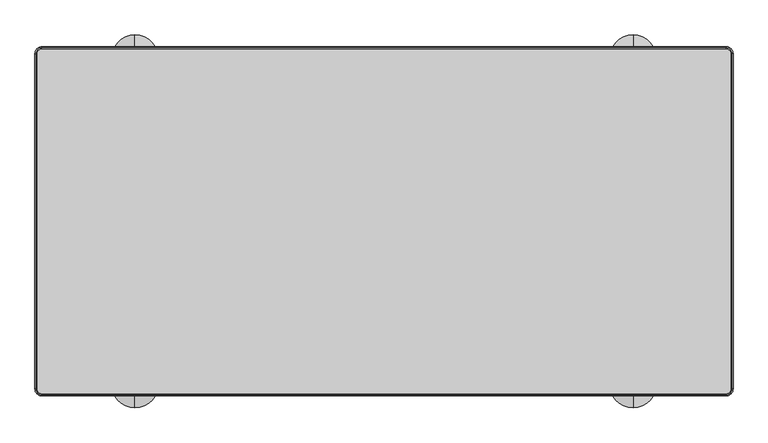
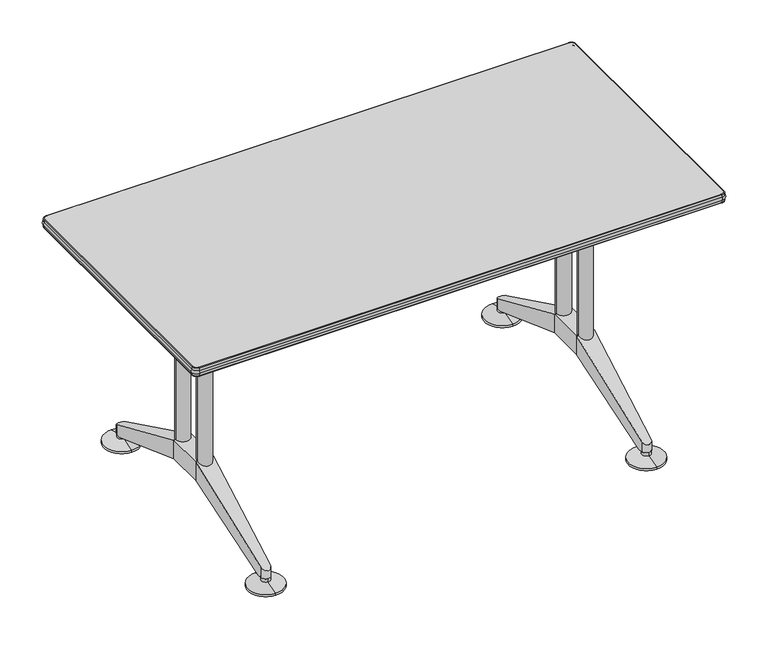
"""IFC4 building model written with IfcOpenShell, lengths in millimetres: furniture geometry, Furniture_Wilkhahn_620-00_Logon Table-Rectangle : Logon 620/00_1500L x 750W x 730H."""

from ifc_helpers import new_model, si_unit, point, frame, frame_2d, origin, place, context, project, spatial, polyline, circle_curve, ellipse_curve, trimmed, segment, composite_curve, outline, extrude, source, transform, mapped, element, save
from ifc_brep_helpers import plane_surface, cylinder_surface, revolved_surface, advanced_brep


def furniture_cd230aaf(model_context):
    return source(origin(), model_context, "Body", "SolidModel", [
        advanced_brep(
        [(-735.0, -346.5488456, 705.4999792), (-747.5, -334.0488456, 705.4999792), (-746.0, -334.0488456, 703.9999792), (-735.0, -345.0488456, 703.9999792), (-735.0, -346.5488456, 712.6698626), (-747.5, -334.0488456, 712.6698626), (-735.0, -346.5488456, 721.3301166), (-747.5, -334.0488456, 721.3301166), (-735.0, -346.5488456, 728.5), (-747.5, -334.0488456, 728.5), (-735.0, -345.0488456, 730.0), (-746.0, -334.0488456, 730.0), (735.0, -345.0488456, 703.9999792), (735.0, -346.5488456, 705.4999792), (735.0, -346.5488456, 712.6698626), (735.0, -346.5488456, 721.3301166), (735.0, -346.5488456, 728.5), (735.0, -345.0488456, 730.0), (746.0, -334.0488456, 703.9999792), (747.5, -334.0488456, 705.4999792), (747.5, -334.0488456, 712.6698626), (747.5, -334.0488456, 721.3301166), (747.5, -334.0488456, 728.5), (746.0, -334.0488456, 730.0), (746.0, 385.9511544, 703.9999792), (747.5, 385.9511544, 705.4999792), (747.5, 385.9511544, 712.6698626), (747.5, 385.9511544, 721.3301166), (747.5, 385.9511544, 728.5), (746.0, 385.9511544, 730.0), (735.0, 396.9511544, 703.9999792), (735.0, 398.4511544, 705.4999792), (735.0, 398.4511544, 712.6698626), (735.0, 398.4511544, 721.3301166), (735.0, 398.4511544, 728.5), (735.0, 396.9511544, 730.0), (-735.0, 396.9511544, 703.9999792), (-735.0, 398.4511544, 705.4999792), (-735.0, 398.4511544, 712.6698626), (-735.0, 398.4511544, 721.3301166), (-735.0, 398.4511544, 728.5), (-735.0, 396.9511544, 730.0), (-746.0, 385.9511544, 703.9999792), (-747.5, 385.9511544, 705.4999792), (-747.5, 385.9511544, 712.6698626), (-747.5, 385.9511544, 721.3301166), (-747.5, 385.9511544, 728.5), (-746.0, 385.9511544, 730.0)],
        [
            (0, 1, circle_curve(frame((-735.0, -334.0488456, 705.4999792), z_axis=(0.0, 0.0, -1.0), x_axis=(-1.0, 0.0, 0.0)), 12.5)),
            (1, 2, circle_curve(frame((-746.0, -334.0488456, 705.4999792), z_axis=(0.0, -1.0, 0.0), x_axis=(1.0, 0.0, 0.0)), 1.5)),
            (2, 3, circle_curve(frame((-735.0, -334.0488456, 703.9999792), z_axis=(0.0, 0.0, 1.0), x_axis=(-1.0, 0.0, 0.0)), 11.0)),
            (3, 0, circle_curve(frame((-735.0, -345.0488456, 705.4999792), z_axis=(-1.0, 0.0, 0.0), x_axis=(0.0, 1.0, 0.0)), 1.5)),
            (0, 4),
            (4, 5, circle_curve(frame((-735.0, -334.0488456, 712.6698626), z_axis=(0.0, 0.0, -1.0), x_axis=(-1.0, 0.0, 0.0)), 12.5)),
            (5, 1),
            (4, 6, circle_curve(frame((-735.0, -344.0488456, 716.9999896), z_axis=(-1.0, 0.0, 0.0), x_axis=(0.0, 1.0, 0.0)), 5.0)),
            (6, 7, circle_curve(frame((-735.0, -334.0488456, 721.3301166), z_axis=(0.0, 0.0, -1.0), x_axis=(-1.0, 0.0, 0.0)), 12.5)),
            (7, 5, circle_curve(frame((-745.0, -334.0488456, 716.9999896), z_axis=(0.0, -1.0, 0.0), x_axis=(1.0, 0.0, 0.0)), 5.0)),
            (6, 8),
            (8, 9, circle_curve(frame((-735.0, -334.0488456, 728.5), z_axis=(0.0, 0.0, -1.0), x_axis=(-1.0, 0.0, 0.0)), 12.5)),
            (9, 7),
            (8, 10, circle_curve(frame((-735.0, -345.0488456, 728.5), z_axis=(-1.0, 0.0, 0.0), x_axis=(0.0, 1.0, 0.0)), 1.5)),
            (10, 11, circle_curve(frame((-735.0, -334.0488456, 730.0), z_axis=(0.0, 0.0, -1.0), x_axis=(-1.0, 0.0, 0.0)), 11.0)),
            (11, 9, circle_curve(frame((-746.0, -334.0488456, 728.5), z_axis=(0.0, -1.0, 0.0), x_axis=(1.0, 0.0, 0.0)), 1.5)),
            (3, 12),
            (12, 13, circle_curve(frame((735.0, -345.0488456, 705.4999792), z_axis=(-1.0, 0.0, 0.0), x_axis=(0.0, 1.0, 0.0)), 1.5)),
            (13, 0),
            (13, 14),
            (14, 4),
            (14, 15, circle_curve(frame((735.0, -344.0488456, 716.9999896), z_axis=(-1.0, 0.0, 0.0), x_axis=(0.0, 1.0, 0.0)), 5.0)),
            (15, 6),
            (15, 16),
            (16, 8),
            (16, 17, circle_curve(frame((735.0, -345.0488456, 728.5), z_axis=(-1.0, 0.0, 0.0), x_axis=(0.0, 1.0, 0.0)), 1.5)),
            (17, 10),
            (12, 18, circle_curve(frame((735.0, -334.0488456, 703.9999792), z_axis=(0.0, 0.0, 1.0), x_axis=(0.0, -1.0, 0.0)), 11.0)),
            (18, 19, circle_curve(frame((746.0, -334.0488456, 705.4999792), z_axis=(0.0, -1.0, 0.0), x_axis=(-1.0, 0.0, 0.0)), 1.5)),
            (19, 13, circle_curve(frame((735.0, -334.0488456, 705.4999792), z_axis=(0.0, 0.0, -1.0), x_axis=(0.0, -1.0, 0.0)), 12.5)),
            (19, 20),
            (20, 14, circle_curve(frame((735.0, -334.0488456, 712.6698626), z_axis=(0.0, 0.0, -1.0), x_axis=(0.0, -1.0, 0.0)), 12.5)),
            (20, 21, circle_curve(frame((745.0, -334.0488456, 716.9999896), z_axis=(0.0, -1.0, 0.0), x_axis=(-1.0, 0.0, 0.0)), 5.0)),
            (21, 15, circle_curve(frame((735.0, -334.0488456, 721.3301166), z_axis=(0.0, 0.0, -1.0), x_axis=(0.0, -1.0, 0.0)), 12.5)),
            (21, 22),
            (22, 16, circle_curve(frame((735.0, -334.0488456, 728.5), z_axis=(0.0, 0.0, -1.0), x_axis=(0.0, -1.0, 0.0)), 12.5)),
            (22, 23, circle_curve(frame((746.0, -334.0488456, 728.5), z_axis=(0.0, -1.0, 0.0), x_axis=(-1.0, 0.0, 0.0)), 1.5)),
            (23, 17, circle_curve(frame((735.0, -334.0488456, 730.0), z_axis=(0.0, 0.0, -1.0), x_axis=(0.0, -1.0, 0.0)), 11.0)),
            (18, 24),
            (24, 25, circle_curve(frame((746.0, 385.9511544, 705.4999792), z_axis=(0.0, -1.0, 0.0), x_axis=(-1.0, 0.0, 0.0)), 1.5)),
            (25, 19),
            (25, 26),
            (26, 20),
            (26, 27, circle_curve(frame((745.0, 385.9511544, 716.9999896), z_axis=(0.0, -1.0, 0.0), x_axis=(-1.0, 0.0, 0.0)), 5.0)),
            (27, 21),
            (27, 28),
            (28, 22),
            (28, 29, circle_curve(frame((746.0, 385.9511544, 728.5), z_axis=(0.0, -1.0, 0.0), x_axis=(-1.0, 0.0, 0.0)), 1.5)),
            (29, 23),
            (24, 30, circle_curve(frame((735.0, 385.9511544, 703.9999792), z_axis=(0.0, 0.0, 1.0), x_axis=(1.0, 0.0, 0.0)), 11.0)),
            (30, 31, circle_curve(frame((735.0, 396.9511544, 705.4999792), z_axis=(1.0, 0.0, 0.0), x_axis=(0.0, -1.0, 0.0)), 1.5)),
            (31, 25, circle_curve(frame((735.0, 385.9511544, 705.4999792), z_axis=(0.0, 0.0, -1.0), x_axis=(1.0, 0.0, 0.0)), 12.5)),
            (31, 32),
            (32, 26, circle_curve(frame((735.0, 385.9511544, 712.6698626), z_axis=(0.0, 0.0, -1.0), x_axis=(1.0, 0.0, 0.0)), 12.5)),
            (32, 33, circle_curve(frame((735.0, 395.9511544, 716.9999896), z_axis=(1.0, 0.0, 0.0), x_axis=(0.0, -1.0, 0.0)), 5.0)),
            (33, 27, circle_curve(frame((735.0, 385.9511544, 721.3301166), z_axis=(0.0, 0.0, -1.0), x_axis=(1.0, 0.0, 0.0)), 12.5)),
            (33, 34),
            (34, 28, circle_curve(frame((735.0, 385.9511544, 728.5), z_axis=(0.0, 0.0, -1.0), x_axis=(1.0, 0.0, 0.0)), 12.5)),
            (34, 35, circle_curve(frame((735.0, 396.9511544, 728.5), z_axis=(1.0, 0.0, 0.0), x_axis=(0.0, -1.0, 0.0)), 1.5)),
            (35, 29, circle_curve(frame((735.0, 385.9511544, 730.0), z_axis=(0.0, 0.0, -1.0), x_axis=(1.0, 0.0, 0.0)), 11.0)),
            (30, 36),
            (36, 37, circle_curve(frame((-735.0, 396.9511544, 705.4999792), z_axis=(1.0, 0.0, 0.0), x_axis=(0.0, -1.0, 0.0)), 1.5)),
            (37, 31),
            (37, 38),
            (38, 32),
            (38, 39, circle_curve(frame((-735.0, 395.9511544, 716.9999896), z_axis=(1.0, 0.0, 0.0), x_axis=(0.0, -1.0, 0.0)), 5.0)),
            (39, 33),
            (39, 40),
            (40, 34),
            (40, 41, circle_curve(frame((-735.0, 396.9511544, 728.5), z_axis=(1.0, 0.0, 0.0), x_axis=(0.0, -1.0, 0.0)), 1.5)),
            (41, 35),
            (36, 42, circle_curve(frame((-735.0, 385.9511544, 703.9999792), z_axis=(0.0, 0.0, 1.0), x_axis=(0.0, 1.0, 0.0)), 11.0)),
            (42, 43, circle_curve(frame((-746.0, 385.9511544, 705.4999792), z_axis=(0.0, 1.0, 0.0), x_axis=(1.0, 0.0, 0.0)), 1.5)),
            (43, 37, circle_curve(frame((-735.0, 385.9511544, 705.4999792), z_axis=(0.0, 0.0, -1.0), x_axis=(0.0, 1.0, 0.0)), 12.5)),
            (43, 44),
            (44, 38, circle_curve(frame((-735.0, 385.9511544, 712.6698626), z_axis=(0.0, 0.0, -1.0), x_axis=(0.0, 1.0, 0.0)), 12.5)),
            (44, 45, circle_curve(frame((-745.0, 385.9511544, 716.9999896), z_axis=(0.0, 1.0, 0.0), x_axis=(1.0, 0.0, 0.0)), 5.0)),
            (45, 39, circle_curve(frame((-735.0, 385.9511544, 721.3301166), z_axis=(0.0, 0.0, -1.0), x_axis=(0.0, 1.0, 0.0)), 12.5)),
            (45, 46),
            (46, 40, circle_curve(frame((-735.0, 385.9511544, 728.5), z_axis=(0.0, 0.0, -1.0), x_axis=(0.0, 1.0, 0.0)), 12.5)),
            (46, 47, circle_curve(frame((-746.0, 385.9511544, 728.5), z_axis=(0.0, 1.0, 0.0), x_axis=(1.0, 0.0, 0.0)), 1.5)),
            (47, 41, circle_curve(frame((-735.0, 385.9511544, 730.0), z_axis=(0.0, 0.0, -1.0), x_axis=(0.0, 1.0, 0.0)), 11.0)),
            (2, 42),
            (1, 43),
            (5, 44),
            (7, 45),
            (9, 46),
            (11, 47),
        ],
        [
            revolved_surface(trimmed(ellipse_curve(frame((-746.0, -334.0488456, 705.4999792), z_axis=(0.0, 1.0, 0.0), x_axis=(1.0, 0.0, 0.0)), 1.5, 1.5), [point((-746.0, -334.0488456, 703.9999792))], [point((-747.5, -334.0488456, 705.4999792))], True, "CARTESIAN"), (-735.0, -334.0488456, 730.0), (0.0, 0.0, 1.0)),
            cylinder_surface(frame((-735.0, -334.0488456, 730.0), z_axis=(0.0, 0.0, 1.0), x_axis=(-1.0, 0.0, 0.0)), 12.5),
            revolved_surface(trimmed(ellipse_curve(frame((-745.0, -334.0488456, 716.9999896), z_axis=(0.0, 1.0, 0.0), x_axis=(1.0, 0.0, 0.0)), 5.0, 5.0), [point((-747.5, -334.0488456, 712.6698626))], [point((-747.5, -334.0488456, 721.3301166))], True, "CARTESIAN"), (-735.0, -334.0488456, 730.0), (0.0, 0.0, 1.0)),
            revolved_surface(trimmed(ellipse_curve(frame((-746.0, -334.0488456, 728.5), z_axis=(0.0, 1.0, 0.0), x_axis=(1.0, 0.0, 0.0)), 1.5, 1.5), [point((-747.5, -334.0488456, 728.5))], [point((-746.0, -334.0488456, 730.0))], True, "CARTESIAN"), (-735.0, -334.0488456, 730.0), (0.0, 0.0, 1.0)),
            cylinder_surface(frame((-735.0, -345.0488456, 705.4999792), z_axis=(-1.0, 0.0, 0.0), x_axis=(0.0, 1.0, 0.0)), 1.5),
            plane_surface(frame((-735.0, -346.5488456, 705.4999792), z_axis=(0.0, -1.0, 0.0), x_axis=(1.0, 0.0, 0.0))),
            cylinder_surface(frame((-735.0, -344.0488456, 716.9999896), z_axis=(-1.0, 0.0, 0.0), x_axis=(0.0, 1.0, 0.0)), 5.0),
            plane_surface(frame((-735.0, -346.5488456, 721.3301166), z_axis=(0.0, -1.0, 0.0), x_axis=(1.0, 0.0, 0.0))),
            cylinder_surface(frame((-735.0, -345.0488456, 728.5), z_axis=(-1.0, 0.0, 0.0), x_axis=(0.0, 1.0, 0.0)), 1.5),
            revolved_surface(trimmed(ellipse_curve(frame((735.0, -345.0488456, 705.4999792), z_axis=(-1.0, 0.0, 0.0), x_axis=(0.0, 1.0, 0.0)), 1.5, 1.5), [point((735.0, -345.0488456, 703.9999792))], [point((735.0, -346.5488456, 705.4999792))], True, "CARTESIAN"), (735.0, -334.0488456, 730.0), (0.0, 0.0, 1.0)),
            cylinder_surface(frame((735.0, -334.0488456, 730.0), z_axis=(0.0, 0.0, 1.0), x_axis=(0.0, -1.0, 0.0)), 12.5),
            revolved_surface(trimmed(ellipse_curve(frame((735.0, -344.0488456, 716.9999896), z_axis=(-1.0, 0.0, 0.0), x_axis=(0.0, 1.0, 0.0)), 5.0, 5.0), [point((735.0, -346.5488456, 712.6698626))], [point((735.0, -346.5488456, 721.3301166))], True, "CARTESIAN"), (735.0, -334.0488456, 730.0), (0.0, 0.0, 1.0)),
            revolved_surface(trimmed(ellipse_curve(frame((735.0, -345.0488456, 728.5), z_axis=(-1.0, 0.0, 0.0), x_axis=(0.0, 1.0, 0.0)), 1.5, 1.5), [point((735.0, -346.5488456, 728.5))], [point((735.0, -345.0488456, 730.0))], True, "CARTESIAN"), (735.0, -334.0488456, 730.0), (0.0, 0.0, 1.0)),
            cylinder_surface(frame((746.0, -334.0488456, 705.4999792), z_axis=(0.0, -1.0, 0.0), x_axis=(-1.0, 0.0, 0.0)), 1.5),
            plane_surface(frame((747.5, -334.0488456, 705.4999792), z_axis=(1.0, 0.0, 0.0), x_axis=(0.0, 1.0, 0.0))),
            cylinder_surface(frame((745.0, -334.0488456, 716.9999896), z_axis=(0.0, -1.0, 0.0), x_axis=(-1.0, 0.0, 0.0)), 5.0),
            plane_surface(frame((747.5, -334.0488456, 721.3301166), z_axis=(1.0, 0.0, 0.0), x_axis=(0.0, 1.0, 0.0))),
            cylinder_surface(frame((746.0, -334.0488456, 728.5), z_axis=(0.0, -1.0, 0.0), x_axis=(-1.0, 0.0, 0.0)), 1.5),
            revolved_surface(trimmed(ellipse_curve(frame((746.0, 385.9511544, 705.4999792), z_axis=(0.0, -1.0, 0.0), x_axis=(-1.0, 0.0, 0.0)), 1.5, 1.5), [point((746.0, 385.9511544, 703.9999792))], [point((747.5, 385.9511544, 705.4999792))], True, "CARTESIAN"), (735.0, 385.9511544, 730.0), (0.0, 0.0, 1.0)),
            cylinder_surface(frame((735.0, 385.9511544, 730.0), z_axis=(0.0, 0.0, 1.0), x_axis=(1.0, 0.0, 0.0)), 12.5),
            revolved_surface(trimmed(ellipse_curve(frame((745.0, 385.9511544, 716.9999896), z_axis=(0.0, -1.0, 0.0), x_axis=(-1.0, 0.0, 0.0)), 5.0, 5.0), [point((747.5, 385.9511544, 712.6698626))], [point((747.5, 385.9511544, 721.3301166))], True, "CARTESIAN"), (735.0, 385.9511544, 730.0), (0.0, 0.0, 1.0)),
            revolved_surface(trimmed(ellipse_curve(frame((746.0, 385.9511544, 728.5), z_axis=(0.0, -1.0, 0.0), x_axis=(-1.0, 0.0, 0.0)), 1.5, 1.5), [point((747.5, 385.9511544, 728.5))], [point((746.0, 385.9511544, 730.0))], True, "CARTESIAN"), (735.0, 385.9511544, 730.0), (0.0, 0.0, 1.0)),
            cylinder_surface(frame((735.0, 396.9511544, 705.4999792), z_axis=(1.0, 0.0, 0.0), x_axis=(0.0, -1.0, 0.0)), 1.5),
            plane_surface(frame((735.0, 398.4511544, 705.4999792), z_axis=(0.0, 1.0, 0.0), x_axis=(-1.0, 0.0, 0.0))),
            cylinder_surface(frame((735.0, 395.9511544, 716.9999896), z_axis=(1.0, 0.0, 0.0), x_axis=(0.0, -1.0, 0.0)), 5.0),
            plane_surface(frame((735.0, 398.4511544, 721.3301166), z_axis=(0.0, 1.0, 0.0), x_axis=(-1.0, 0.0, 0.0))),
            cylinder_surface(frame((735.0, 396.9511544, 728.5), z_axis=(1.0, 0.0, 0.0), x_axis=(0.0, -1.0, 0.0)), 1.5),
            revolved_surface(trimmed(ellipse_curve(frame((-735.0, 396.9511544, 705.4999792), z_axis=(1.0, 0.0, 0.0), x_axis=(0.0, -1.0, 0.0)), 1.5, 1.5), [point((-735.0, 396.9511544, 703.9999792))], [point((-735.0, 398.4511544, 705.4999792))], True, "CARTESIAN"), (-735.0, 385.9511544, 730.0), (0.0, 0.0, 1.0)),
            cylinder_surface(frame((-735.0, 385.9511544, 730.0), z_axis=(0.0, 0.0, 1.0), x_axis=(0.0, 1.0, 0.0)), 12.5),
            revolved_surface(trimmed(ellipse_curve(frame((-735.0, 395.9511544, 716.9999896), z_axis=(1.0, 0.0, 0.0), x_axis=(0.0, -1.0, 0.0)), 5.0, 5.0), [point((-735.0, 398.4511544, 712.6698626))], [point((-735.0, 398.4511544, 721.3301166))], True, "CARTESIAN"), (-735.0, 385.9511544, 730.0), (0.0, 0.0, 1.0)),
            revolved_surface(trimmed(ellipse_curve(frame((-735.0, 396.9511544, 728.5), z_axis=(1.0, 0.0, 0.0), x_axis=(0.0, -1.0, 0.0)), 1.5, 1.5), [point((-735.0, 398.4511544, 728.5))], [point((-735.0, 396.9511544, 730.0))], True, "CARTESIAN"), (-735.0, 385.9511544, 730.0), (0.0, 0.0, 1.0)),
            plane_surface(frame((-745.0, 385.9511544, 703.9999792), z_axis=(0.0, 0.0, -1.0), x_axis=(0.0, -1.0, 0.0))),
            cylinder_surface(frame((-746.0, 385.9511544, 705.4999792), z_axis=(0.0, 1.0, 0.0), x_axis=(1.0, 0.0, 0.0)), 1.5),
            plane_surface(frame((-747.5, 385.9511544, 705.4999792), z_axis=(-1.0, 0.0, 0.0), x_axis=(0.0, -1.0, 0.0))),
            cylinder_surface(frame((-745.0, 385.9511544, 716.9999896), z_axis=(0.0, 1.0, 0.0), x_axis=(1.0, 0.0, 0.0)), 5.0),
            plane_surface(frame((-747.5, 385.9511544, 721.3301166), z_axis=(-1.0, 0.0, 0.0), x_axis=(0.0, -1.0, 0.0))),
            cylinder_surface(frame((-746.0, 385.9511544, 728.5), z_axis=(0.0, 1.0, 0.0), x_axis=(1.0, 0.0, 0.0)), 1.5),
            plane_surface(frame((-746.0, 385.9511544, 730.0), z_axis=(0.0, 0.0, 1.0), x_axis=(0.0, -1.0, 0.0))),
        ],
        [
            (0, [[1, 2, 3, 4]]),
            (1, [[-1, 5, 6, 7]]),
            (2, [[-6, 8, 9, 10]]),
            (1, [[-9, 11, 12, 13]]),
            (3, [[-12, 14, 15, 16]]),
            (4, [[-4, 17, 18, 19]]),
            (5, [[-5, -19, 20, 21]]),
            (6, [[-8, -21, 22, 23]]),
            (7, [[-11, -23, 24, 25]]),
            (8, [[-14, -25, 26, 27]]),
            (9, [[-18, 28, 29, 30]]),
            (10, [[-20, -30, 31, 32]]),
            (11, [[-22, -32, 33, 34]]),
            (10, [[-24, -34, 35, 36]]),
            (12, [[-26, -36, 37, 38]]),
            (13, [[-29, 39, 40, 41]]),
            (14, [[-31, -41, 42, 43]]),
            (15, [[-33, -43, 44, 45]]),
            (16, [[-35, -45, 46, 47]]),
            (17, [[-37, -47, 48, 49]]),
            (18, [[-40, 50, 51, 52]]),
            (19, [[-42, -52, 53, 54]]),
            (20, [[-44, -54, 55, 56]]),
            (19, [[-46, -56, 57, 58]]),
            (21, [[-48, -58, 59, 60]]),
            (22, [[-51, 61, 62, 63]]),
            (23, [[-53, -63, 64, 65]]),
            (24, [[-55, -65, 66, 67]]),
            (25, [[-57, -67, 68, 69]]),
            (26, [[-59, -69, 70, 71]]),
            (27, [[-62, 72, 73, 74]]),
            (28, [[-64, -74, 75, 76]]),
            (29, [[-66, -76, 77, 78]]),
            (28, [[-68, -78, 79, 80]]),
            (30, [[-70, -80, 81, 82]]),
            (31, [[-3, 83, -72, -61, -50, -39, -28, -17]]),
            (32, [[-2, 84, -73, -83]]),
            (33, [[-7, 85, -75, -84]]),
            (34, [[-10, 86, -77, -85]]),
            (35, [[-13, 87, -79, -86]]),
            (36, [[-16, 88, -81, -87]]),
            (37, [[-15, -27, -38, -49, -60, -71, -82, -88]]),
        ],
    ),
        advanced_brep(
        [(535.0, 376.4755164, 0.0), (535.0, 326.4755164, 0.0), (535.0, 426.4755164, 0.0), (535.0, 326.4755164, 6.0), (535.0, 426.4755164, 6.0), (535.0, 363.9998784, 17.0), (535.0, 388.9511544, 17.0), (535.0, 363.9998784, 27.0), (535.0, 388.9511544, 27.0), (535.0, 376.4755164, 27.0)],
        [
            (0, 1),
            (1, 2, circle_curve(frame((535.0, 376.4755164, 0.0), z_axis=(0.0, 0.0, -1.0), x_axis=(0.0, 1.0000000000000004, 0.0)), 50.0)),
            (2, 0),
            (2, 1, circle_curve(frame((535.0, 376.4755164, 0.0), z_axis=(0.0, 0.0, -1.0), x_axis=(0.0, 1.0000000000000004, 0.0)), 50.0)),
            (1, 3),
            (3, 4, circle_curve(frame((535.0, 376.4755164, 6.0), z_axis=(0.0, 0.0, -1.0), x_axis=(0.0, 1.0000000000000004, 0.0)), 50.0)),
            (4, 2),
            (4, 3, circle_curve(frame((535.0, 376.4755164, 6.0), z_axis=(0.0, 0.0, -1.0), x_axis=(0.0, 1.0000000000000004, 0.0)), 50.0)),
            (3, 5),
            (5, 6, circle_curve(frame((535.0, 376.4755164, 17.0), z_axis=(0.0, 0.0, -1.0), x_axis=(0.0, 1.0000000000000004, 0.0)), 12.475638)),
            (6, 4),
            (6, 5, circle_curve(frame((535.0, 376.4755164, 17.0), z_axis=(0.0, 0.0, -1.0), x_axis=(0.0, 1.0000000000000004, 0.0)), 12.475638)),
            (5, 7),
            (7, 8, circle_curve(frame((535.0, 376.4755164, 27.0), z_axis=(0.0, 0.0, -1.0), x_axis=(0.0, 1.0000000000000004, 0.0)), 12.475638)),
            (8, 6),
            (8, 7, circle_curve(frame((535.0, 376.4755164, 27.0), z_axis=(0.0, 0.0, -1.0), x_axis=(0.0, 1.0000000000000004, 0.0)), 12.475638)),
            (7, 9),
            (9, 8),
        ],
        [
            plane_surface(frame((535.0, 376.4755164, 0.0), z_axis=(0.0, 0.0, -1.0), x_axis=(0.0, 1.0, 0.0))),
            cylinder_surface(frame((535.0, 376.4755164, 27.0), z_axis=(0.0, 0.0, -1.0), x_axis=(0.0, 1.0000000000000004, 0.0)), 50.0),
            revolved_surface(polyline([(535.0, 388.9511544, 17.0), (535.0, 426.4755164, 6.0)]), (535.0, 376.4755164, 27.0), (0.0, 0.0, -1.0)),
            cylinder_surface(frame((535.0, 376.4755164, 27.0), z_axis=(0.0, 0.0, -1.0), x_axis=(0.0, 1.0000000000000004, 0.0)), 12.475638),
            plane_surface(frame((535.0, 376.4755164, 27.0), z_axis=(0.0, 0.0, 1.0), x_axis=(0.0, 1.0, 0.0))),
        ],
        [
            (0, [[1, 2, 3]]),
            (0, [[-3, 4, -1]]),
            (1, [[5, 6, 7, -2]]),
            (1, [[-7, 8, -5, -4]]),
            (2, [[9, 10, 11, -6]]),
            (2, [[-11, 12, -9, -8]]),
            (3, [[13, 14, 15, -10]]),
            (3, [[-15, 16, -13, -12]]),
            (4, [[17, 18, -14]]),
            (4, [[-18, -17, -16]]),
        ],
    ),
        advanced_brep(
        [(535.0, -274.5732076, 0.0), (535.0, -324.5732076, 0.0), (535.0, -374.5732076, 0.0), (535.0, -274.5732076, 6.0), (535.0, -374.5732076, 6.0), (535.0, -312.0975696, 17.0), (535.0, -337.0488456, 17.0), (535.0, -312.0975696, 27.0), (535.0, -337.0488456, 27.0), (535.0, -324.5732076, 27.0)],
        [
            (0, 1),
            (1, 2),
            (2, 0, circle_curve(frame((535.0, -324.5732076, 0.0), z_axis=(0.0, 0.0, -1.0), x_axis=(0.0, -1.0000000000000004, 0.0)), 50.0)),
            (0, 2, circle_curve(frame((535.0, -324.5732076, 0.0), z_axis=(0.0, 0.0, -1.0), x_axis=(0.0, -1.0000000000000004, 0.0)), 50.0)),
            (3, 0),
            (2, 4),
            (4, 3, circle_curve(frame((535.0, -324.5732076, 6.0), z_axis=(0.0, 0.0, -1.0), x_axis=(0.0, -1.0000000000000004, 0.0)), 50.0)),
            (3, 4, circle_curve(frame((535.0, -324.5732076, 6.0), z_axis=(0.0, 0.0, -1.0), x_axis=(0.0, -1.0000000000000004, 0.0)), 50.0)),
            (5, 3),
            (4, 6),
            (6, 5, circle_curve(frame((535.0, -324.5732076, 17.0), z_axis=(0.0, 0.0, -1.0), x_axis=(0.0, -1.0000000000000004, 0.0)), 12.475638)),
            (5, 6, circle_curve(frame((535.0, -324.5732076, 17.0), z_axis=(0.0, 0.0, -1.0), x_axis=(0.0, -1.0000000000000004, 0.0)), 12.475638)),
            (7, 5),
            (6, 8),
            (8, 7, circle_curve(frame((535.0, -324.5732076, 27.0), z_axis=(0.0, 0.0, -1.0), x_axis=(0.0, -1.0000000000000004, 0.0)), 12.475638)),
            (7, 8, circle_curve(frame((535.0, -324.5732076, 27.0), z_axis=(0.0, 0.0, -1.0), x_axis=(0.0, -1.0000000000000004, 0.0)), 12.475638)),
            (9, 7),
            (8, 9),
        ],
        [
            plane_surface(frame((535.0, -324.5732076, 0.0), z_axis=(0.0, 0.0, -1.0), x_axis=(0.0, -1.0, 0.0))),
            cylinder_surface(frame((535.0, -324.5732076, 27.0), z_axis=(0.0, 0.0, 1.0), x_axis=(0.0, -1.0000000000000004, 0.0)), 50.0),
            revolved_surface(polyline([(535.0, -374.5732076, 6.0), (535.0, -337.0488456, 17.0)]), (535.0, -324.5732076, 27.0), (0.0, 0.0, 1.0)),
            cylinder_surface(frame((535.0, -324.5732076, 27.0), z_axis=(0.0, 0.0, 1.0), x_axis=(0.0, -1.0000000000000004, 0.0)), 12.475638),
            plane_surface(frame((535.0, -324.5732076, 27.0), z_axis=(0.0, 0.0, 1.0), x_axis=(0.0, -1.0, 0.0))),
        ],
        [
            (0, [[1, 2, 3]]),
            (0, [[-2, -1, 4]]),
            (1, [[5, -3, 6, 7]]),
            (1, [[-6, -4, -5, 8]]),
            (2, [[9, -7, 10, 11]]),
            (2, [[-10, -8, -9, 12]]),
            (3, [[13, -11, 14, 15]]),
            (3, [[-14, -12, -13, 16]]),
            (4, [[17, -15, 18]]),
            (4, [[-18, -16, -17]]),
        ],
    ),
        extrude(outline(composite_curve([segment(polyline([(560.0, 78.9511544), (560.0, -27.0488456), (586.7160071, -190.1086133)]), True, "CONTINUOUS"), segment(trimmed(circle_curve(frame_2d((574.8739001, -192.0488456)), 12.0), [point((586.7160071, -190.1086133))], [point((574.8739001, -204.0488456))], False, "CARTESIAN"), True, "CONTINUOUS"), segment(polyline([(574.8739001, -204.0488456), (495.1260999, -204.0488456)]), True, "CONTINUOUS"), segment(trimmed(circle_curve(frame_2d((495.1260999, -192.0488456)), 12.0), [point((495.1260999, -204.0488456))], [point((483.2839929, -190.1086133))], False, "CARTESIAN"), True, "CONTINUOUS"), segment(polyline([(483.2839929, -190.1086133), (510.0, -27.0488456), (510.0, 78.9511544), (483.2839929, 242.0109222)]), True, "CONTINUOUS"), segment(trimmed(circle_curve(frame_2d((495.1260999, 243.9511544)), 12.0), [point((483.2839929, 242.0109222))], [point((495.1260999, 255.9511544))], False, "CARTESIAN"), True, "CONTINUOUS"), segment(polyline([(495.1260999, 255.9511544), (574.8739001, 255.9511544)]), True, "CONTINUOUS"), segment(trimmed(circle_curve(frame_2d((574.8739001, 243.9511544)), 12.0), [point((574.8739001, 255.9511544))], [point((586.7160071, 242.0109222))], False, "CARTESIAN"), True, "CONTINUOUS"), segment(polyline([(586.7160071, 242.0109222), (560.0, 78.9511544)]), True, "CONTINUOUS")], self_intersect=False)), frame((0.0, 0.0, 675.0), z_axis=(0.0, 0.0, 1.0), x_axis=(1.0, 0.0, 0.0)), (0.0, 0.0, 1.0), 29.0),
        advanced_brep(
        [(510.0, -27.0488456, 140.0), (510.0, -27.0488456, 195.0), (510.0, 78.9511544, 195.0), (510.0, 78.9511544, 140.0), (560.0, -27.0488456, 195.0), (560.0, -27.0488456, 140.0), (560.0, 78.9511544, 140.0), (560.0, 78.9511544, 195.0), (548.4930419, -312.0975696, 27.0), (547.9894205, -324.5732076, 27.0), (535.0, -337.0488456, 27.0), (522.0105795, -324.5732076, 27.0), (521.5069581, -312.0975696, 27.0), (522.0105795, -324.5732076, 56.4159205), (535.0, -337.0488456, 50.6048844), (547.9894205, -324.5732076, 56.4159205), (547.9894205, 376.4755164, 56.4159205), (548.4930419, 363.9998784, 27.0), (547.9894205, 376.4755164, 27.0), (522.0105795, 376.4755164, 27.0), (521.5069581, 363.9998784, 27.0), (522.0105795, 376.4755164, 56.4159205), (535.0, 388.9511544, 50.6048844), (535.0, 388.9511544, 27.0)],
        [
            (0, 1),
            (1, 2),
            (2, 3),
            (3, 0),
            (4, 5),
            (5, 6),
            (6, 7),
            (7, 4),
            (8, 9),
            (9, 10, circle_curve(frame((535.0, -324.0488456, 27.0), z_axis=(0.0, 0.0, -1.0), x_axis=(1.0000000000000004, 0.0, 0.0)), 13.0)),
            (10, 11, circle_curve(frame((535.0, -324.0488456, 27.0), z_axis=(0.0, 0.0, -1.0), x_axis=(1.0000000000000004, 0.0, 0.0)), 13.0)),
            (11, 12),
            (12, 8),
            (1, 13),
            (13, 14, ellipse_curve(frame((535.0, -324.0488456, 56.6601634), z_axis=(0.0, -0.42223330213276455, 0.9064871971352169), x_axis=(0.0, -0.9064871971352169, -0.42223330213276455)), 14.341074, 13.0)),
            (14, 15, ellipse_curve(frame((535.0, -324.0488456, 56.6601634), z_axis=(0.0, -0.42223330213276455, 0.9064871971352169), x_axis=(0.0, -0.9064871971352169, -0.42223330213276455)), 14.341074, 13.0)),
            (15, 4),
            (4, 1),
            (5, 8),
            (12, 0),
            (0, 5),
            (16, 7),
            (6, 17),
            (17, 18),
            (18, 16),
            (19, 20),
            (20, 3),
            (2, 21),
            (21, 19),
            (7, 2),
            (3, 6),
            (21, 22, ellipse_curve(frame((535.0, 375.9511544, 56.6601634), z_axis=(0.0, -0.42223330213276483, -0.906487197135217), x_axis=(0.0, 0.906487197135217, -0.42223330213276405)), 14.341074, 13.0)),
            (22, 16, ellipse_curve(frame((535.0, 375.9511544, 56.6601634), z_axis=(0.0, -0.42223330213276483, -0.906487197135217), x_axis=(0.0, 0.906487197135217, -0.42223330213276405)), 14.341074, 13.0)),
            (18, 23, circle_curve(frame((535.0, 375.9511544, 27.0), z_axis=(0.0, 0.0, 1.0), x_axis=(1.0000000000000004, 0.0, 0.0)), 13.0)),
            (23, 19, circle_curve(frame((535.0, 375.9511544, 27.0), z_axis=(0.0, 0.0, 1.0), x_axis=(1.0000000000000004, 0.0, 0.0)), 13.0)),
            (11, 13),
            (9, 15),
            (17, 20),
        ],
        [
            plane_surface(frame((510.0, -320.3023057, 27.0), z_axis=(-1.0, 0.0, 0.0), x_axis=(0.0, 1.0, 0.0))),
            plane_surface(frame((560.0, -320.3023057, 27.0), z_axis=(1.0, 0.0, 0.0), x_axis=(0.0, -1.0, 0.0))),
            plane_surface(frame((560.0, -312.0975696, 27.0), z_axis=(0.0, 0.0, -1.0), x_axis=(-1.0, 0.0, 0.0))),
            plane_surface(frame((560.0, -337.0488456, 50.6048844), z_axis=(0.0, -0.42223330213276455, 0.9064871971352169), x_axis=(-1.0, 0.0, 0.0))),
            plane_surface(frame((560.0, -27.0488456, 140.0), z_axis=(0.0, 0.36852267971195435, -0.9296187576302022), x_axis=(-1.0, 0.0, 0.0))),
            plane_surface(frame((560.0, 78.9511544, 195.0), z_axis=(0.9991861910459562, 0.04033553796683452, 0.0), x_axis=(0.0, 0.0, -1.0))),
            plane_surface(frame((522.0105795, 376.4755164, 195.0), z_axis=(-0.9991861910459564, 0.0403355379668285, 0.0), x_axis=(0.0, 0.0, -1.0))),
            plane_surface(frame((560.0, -27.0488456, 195.0), z_axis=(0.0, 0.0, 1.0), x_axis=(-1.0, 0.0, 0.0))),
            plane_surface(frame((560.0, 78.9511544, 140.0), z_axis=(0.0, 0.0, -1.0), x_axis=(-1.0, 0.0, 0.0))),
            cylinder_surface(frame((535.0, 375.9511544, 0.0), z_axis=(0.0, 0.0, -1.0), x_axis=(1.0000000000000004, 0.0, 0.0)), 13.0),
            plane_surface(frame((510.0, -27.0488456, 195.0), z_axis=(-0.9991861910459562, -0.040335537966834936, 0.0), x_axis=(0.0, 0.0, -1.0))),
            cylinder_surface(frame((535.0, -324.0488456, -14.190167), z_axis=(0.0, 0.0, -1.0), x_axis=(1.0000000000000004, 0.0, 0.0)), 13.0),
            plane_surface(frame((547.9894205, -324.5732076, 195.0), z_axis=(0.9991861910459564, -0.04033553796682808, 0.0), x_axis=(0.0, 0.0, -1.0))),
            plane_surface(frame((560.0, 78.9511544, 195.0), z_axis=(0.0, 0.4222333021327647, 0.9064871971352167), x_axis=(-1.0, 0.0, 0.0))),
            plane_surface(frame((560.0, 388.9511544, 27.0), z_axis=(0.0, 0.0, -1.0), x_axis=(-1.0, 0.0, 0.0))),
            plane_surface(frame((560.0, 363.9998784, 27.0), z_axis=(0.0, -0.36852267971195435, -0.929618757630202), x_axis=(-1.0, 0.0, 0.0))),
        ],
        [
            (0, [[1, 2, 3, 4]]),
            (1, [[5, 6, 7, 8]]),
            (2, [[9, 10, 11, 12, 13]]),
            (3, [[14, 15, 16, 17, 18]]),
            (4, [[19, -13, 20, 21]]),
            (5, [[22, -7, 23, 24, 25]]),
            (6, [[26, 27, -3, 28, 29]]),
            (7, [[-18, -8, 30, -2]]),
            (8, [[31, -6, -21, -4]]),
            (9, [[32, 33, -25, 34, 35, -29]]),
            (10, [[-14, -1, -20, -12, 36]]),
            (11, [[-11, -10, 37, -16, -15, -36]]),
            (12, [[-9, -19, -5, -17, -37]]),
            (13, [[-22, -33, -32, -28, -30]]),
            (14, [[-26, -35, -34, -24, 38]]),
            (15, [[-27, -38, -23, -31]]),
        ],
    ),
        extrude(outline(composite_curve([segment(trimmed(circle_curve(frame_2d((535.0, 78.9511544)), 20.0), [point((515.0, 78.9511544))], [point((555.0, 78.9511544))], False, "CARTESIAN"), True, "CONTINUOUS"), segment(trimmed(circle_curve(frame_2d((535.0, 78.9511544)), 20.0), [point((555.0, 78.9511544))], [point((515.0, 78.9511544))], False, "CARTESIAN"), True, "CONTINUOUS")], self_intersect=False)), frame((0.0, 0.0, 140.0), z_axis=(0.0, 0.0, 1.0), x_axis=(1.0, 0.0, 0.0)), (0.0, 0.0, 1.0), 535.0),
        extrude(outline(composite_curve([segment(trimmed(circle_curve(frame_2d((535.0, -27.0488456)), 20.0), [point((515.0, -27.0488456))], [point((555.0, -27.0488456))], False, "CARTESIAN"), True, "CONTINUOUS"), segment(trimmed(circle_curve(frame_2d((535.0, -27.0488456)), 20.0), [point((555.0, -27.0488456))], [point((515.0, -27.0488456))], False, "CARTESIAN"), True, "CONTINUOUS")], self_intersect=False)), frame((0.0, 0.0, 140.0), z_axis=(0.0, 0.0, 1.0), x_axis=(1.0, 0.0, 0.0)), (0.0, 0.0, 1.0), 535.0),
        advanced_brep(
        [(-535.0, 376.4755164, 0.0), (-535.0, 426.4755164, 0.0), (-535.0, 326.4755164, 0.0), (-535.0, 426.4755164, 6.0), (-535.0, 326.4755164, 6.0), (-535.0, 388.9511544, 17.0), (-535.0, 363.9998784, 17.0), (-535.0, 388.9511544, 27.0), (-535.0, 363.9998784, 27.0), (-535.0, 376.4755164, 27.0)],
        [
            (0, 1),
            (1, 2, circle_curve(frame((-535.0, 376.4755164, 0.0), z_axis=(0.0, 0.0, -1.0), x_axis=(0.0, 1.0000000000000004, 0.0)), 50.0)),
            (2, 0),
            (2, 1, circle_curve(frame((-535.0, 376.4755164, 0.0), z_axis=(0.0, 0.0, -1.0), x_axis=(0.0, 1.0000000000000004, 0.0)), 50.0)),
            (1, 3),
            (3, 4, circle_curve(frame((-535.0, 376.4755164, 6.0), z_axis=(0.0, 0.0, -1.0), x_axis=(0.0, 1.0000000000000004, 0.0)), 50.0)),
            (4, 2),
            (4, 3, circle_curve(frame((-535.0, 376.4755164, 6.0), z_axis=(0.0, 0.0, -1.0), x_axis=(0.0, 1.0000000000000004, 0.0)), 50.0)),
            (3, 5),
            (5, 6, circle_curve(frame((-535.0, 376.4755164, 17.0), z_axis=(0.0, 0.0, -1.0), x_axis=(0.0, 1.0000000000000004, 0.0)), 12.475638)),
            (6, 4),
            (6, 5, circle_curve(frame((-535.0, 376.4755164, 17.0), z_axis=(0.0, 0.0, -1.0), x_axis=(0.0, 1.0000000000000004, 0.0)), 12.475638)),
            (5, 7),
            (7, 8, circle_curve(frame((-535.0, 376.4755164, 27.0), z_axis=(0.0, 0.0, -1.0), x_axis=(0.0, 1.0000000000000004, 0.0)), 12.475638)),
            (8, 6),
            (8, 7, circle_curve(frame((-535.0, 376.4755164, 27.0), z_axis=(0.0, 0.0, -1.0), x_axis=(0.0, 1.0000000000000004, 0.0)), 12.475638)),
            (7, 9),
            (9, 8),
        ],
        [
            plane_surface(frame((-535.0, 376.4755164, 0.0), z_axis=(0.0, 0.0, -1.0), x_axis=(0.0, 1.0, 0.0))),
            cylinder_surface(frame((-535.0, 376.4755164, 27.0), z_axis=(0.0, 0.0, -1.0), x_axis=(0.0, 1.0000000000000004, 0.0)), 50.0),
            revolved_surface(polyline([(-535.0, 388.9511544, 17.0), (-535.0, 426.4755164, 6.0)]), (-535.0, 376.4755164, 27.0), (0.0, 0.0, -1.0)),
            cylinder_surface(frame((-535.0, 376.4755164, 27.0), z_axis=(0.0, 0.0, -1.0), x_axis=(0.0, 1.0000000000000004, 0.0)), 12.475638),
            plane_surface(frame((-535.0, 376.4755164, 27.0), z_axis=(0.0, 0.0, 1.0), x_axis=(0.0, 1.0, 0.0))),
        ],
        [
            (0, [[1, 2, 3]]),
            (0, [[-3, 4, -1]]),
            (1, [[-2, 5, 6, 7]]),
            (1, [[-4, -7, 8, -5]]),
            (2, [[-6, 9, 10, 11]]),
            (2, [[-8, -11, 12, -9]]),
            (3, [[-10, 13, 14, 15]]),
            (3, [[-12, -15, 16, -13]]),
            (4, [[-14, 17, 18]]),
            (4, [[-16, -18, -17]]),
        ],
    ),
        advanced_brep(
        [(-535.0, -274.5732076, 0.0), (-535.0, -374.5732076, 0.0), (-535.0, -324.5732076, 0.0), (-535.0, -274.5732076, 6.0), (-535.0, -374.5732076, 6.0), (-535.0, -312.0975696, 17.0), (-535.0, -337.0488456, 17.0), (-535.0, -312.0975696, 27.0), (-535.0, -337.0488456, 27.0), (-535.0, -324.5732076, 27.0)],
        [
            (0, 1, circle_curve(frame((-535.0, -324.5732076, 0.0), z_axis=(0.0, 0.0, -1.0), x_axis=(0.0, -1.0000000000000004, 0.0)), 50.0)),
            (1, 2),
            (2, 0),
            (1, 0, circle_curve(frame((-535.0, -324.5732076, 0.0), z_axis=(0.0, 0.0, -1.0), x_axis=(0.0, -1.0000000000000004, 0.0)), 50.0)),
            (3, 4, circle_curve(frame((-535.0, -324.5732076, 6.0), z_axis=(0.0, 0.0, -1.0), x_axis=(0.0, -1.0000000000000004, 0.0)), 50.0)),
            (4, 1),
            (0, 3),
            (4, 3, circle_curve(frame((-535.0, -324.5732076, 6.0), z_axis=(0.0, 0.0, -1.0), x_axis=(0.0, -1.0000000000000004, 0.0)), 50.0)),
            (5, 6, circle_curve(frame((-535.0, -324.5732076, 17.0), z_axis=(0.0, 0.0, -1.0), x_axis=(0.0, -1.0000000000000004, 0.0)), 12.475638)),
            (6, 4),
            (3, 5),
            (6, 5, circle_curve(frame((-535.0, -324.5732076, 17.0), z_axis=(0.0, 0.0, -1.0), x_axis=(0.0, -1.0000000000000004, 0.0)), 12.475638)),
            (7, 8, circle_curve(frame((-535.0, -324.5732076, 27.0), z_axis=(0.0, 0.0, -1.0), x_axis=(0.0, -1.0000000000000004, 0.0)), 12.475638)),
            (8, 6),
            (5, 7),
            (8, 7, circle_curve(frame((-535.0, -324.5732076, 27.0), z_axis=(0.0, 0.0, -1.0), x_axis=(0.0, -1.0000000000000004, 0.0)), 12.475638)),
            (9, 8),
            (7, 9),
        ],
        [
            plane_surface(frame((-535.0, -324.5732076, 0.0), z_axis=(0.0, 0.0, -1.0), x_axis=(0.0, -1.0, 0.0))),
            cylinder_surface(frame((-535.0, -324.5732076, 27.0), z_axis=(0.0, 0.0, 1.0), x_axis=(0.0, -1.0000000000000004, 0.0)), 50.0),
            revolved_surface(polyline([(-535.0, -374.5732076, 6.0), (-535.0, -337.0488456, 17.0)]), (-535.0, -324.5732076, 27.0), (0.0, 0.0, 1.0)),
            cylinder_surface(frame((-535.0, -324.5732076, 27.0), z_axis=(0.0, 0.0, 1.0), x_axis=(0.0, -1.0000000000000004, 0.0)), 12.475638),
            plane_surface(frame((-535.0, -324.5732076, 27.0), z_axis=(0.0, 0.0, 1.0), x_axis=(0.0, -1.0, 0.0))),
        ],
        [
            (0, [[1, 2, 3]]),
            (0, [[4, -3, -2]]),
            (1, [[5, 6, -1, 7]]),
            (1, [[8, -7, -4, -6]]),
            (2, [[9, 10, -5, 11]]),
            (2, [[12, -11, -8, -10]]),
            (3, [[13, 14, -9, 15]]),
            (3, [[16, -15, -12, -14]]),
            (4, [[17, -13, 18]]),
            (4, [[-18, -16, -17]]),
        ],
    ),
        extrude(outline(composite_curve([segment(polyline([(-560.0, 78.9511544), (-586.7160071, 242.0109222)]), True, "CONTINUOUS"), segment(trimmed(circle_curve(frame_2d((-574.8739001, 243.9511544)), 12.0), [point((-586.7160071, 242.0109222))], [point((-574.8739001, 255.9511544))], False, "CARTESIAN"), True, "CONTINUOUS"), segment(polyline([(-574.8739001, 255.9511544), (-495.1260999, 255.9511544)]), True, "CONTINUOUS"), segment(trimmed(circle_curve(frame_2d((-495.1260999, 243.9511544)), 12.0), [point((-495.1260999, 255.9511544))], [point((-483.2839929, 242.0109222))], False, "CARTESIAN"), True, "CONTINUOUS"), segment(polyline([(-483.2839929, 242.0109222), (-510.0, 78.9511544), (-510.0, -27.0488456), (-483.2839929, -190.1086133)]), True, "CONTINUOUS"), segment(trimmed(circle_curve(frame_2d((-495.1260999, -192.0488456)), 12.0), [point((-483.2839929, -190.1086133))], [point((-495.1260999, -204.0488456))], False, "CARTESIAN"), True, "CONTINUOUS"), segment(polyline([(-495.1260999, -204.0488456), (-574.8739001, -204.0488456)]), True, "CONTINUOUS"), segment(trimmed(circle_curve(frame_2d((-574.8739001, -192.0488456)), 12.0), [point((-574.8739001, -204.0488456))], [point((-586.7160071, -190.1086133))], False, "CARTESIAN"), True, "CONTINUOUS"), segment(polyline([(-586.7160071, -190.1086133), (-560.0, -27.0488456), (-560.0, 78.9511544)]), True, "CONTINUOUS")], self_intersect=False)), frame((0.0, 0.0, 675.0), z_axis=(0.0, 0.0, 1.0), x_axis=(1.0, 0.0, 0.0)), (0.0, 0.0, 1.0), 29.0),
        advanced_brep(
        [(-510.0, -27.0488456, 140.0), (-510.0, 78.9511544, 140.0), (-510.0, 78.9511544, 195.0), (-510.0, -27.0488456, 195.0), (-560.0, -27.0488456, 195.0), (-560.0, 78.9511544, 195.0), (-560.0, 78.9511544, 140.0), (-560.0, -27.0488456, 140.0), (-548.4930419, -312.0975696, 27.0), (-521.5069581, -312.0975696, 27.0), (-522.0105795, -324.5732076, 27.0), (-535.0, -337.0488456, 27.0), (-547.9894205, -324.5732076, 27.0), (-547.9894205, -324.5732076, 56.4159205), (-535.0, -337.0488456, 50.6048844), (-522.0105795, -324.5732076, 56.4159205), (-547.9894205, 376.4755164, 56.4159205), (-547.9894205, 376.4755164, 27.0), (-548.4930419, 363.9998784, 27.0), (-522.0105795, 376.4755164, 27.0), (-522.0105795, 376.4755164, 56.4159205), (-521.5069581, 363.9998784, 27.0), (-535.0, 388.9511544, 27.0), (-535.0, 388.9511544, 50.6048844)],
        [
            (0, 1),
            (1, 2),
            (2, 3),
            (3, 0),
            (4, 5),
            (5, 6),
            (6, 7),
            (7, 4),
            (8, 9),
            (9, 10),
            (10, 11, circle_curve(frame((-535.0, -324.0488456, 27.0), z_axis=(0.0, 0.0, -1.0), x_axis=(-1.0000000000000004, 0.0, 0.0)), 13.0)),
            (11, 12, circle_curve(frame((-535.0, -324.0488456, 27.0), z_axis=(0.0, 0.0, -1.0), x_axis=(-1.0000000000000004, 0.0, 0.0)), 13.0)),
            (12, 8),
            (3, 4),
            (4, 13),
            (13, 14, ellipse_curve(frame((-535.0, -324.0488456, 56.6601634), z_axis=(0.0, -0.42223330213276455, 0.9064871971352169), x_axis=(0.0, -0.9064871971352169, -0.42223330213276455)), 14.341074, 13.0)),
            (14, 15, ellipse_curve(frame((-535.0, -324.0488456, 56.6601634), z_axis=(0.0, -0.42223330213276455, 0.9064871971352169), x_axis=(0.0, -0.9064871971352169, -0.42223330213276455)), 14.341074, 13.0)),
            (15, 3),
            (7, 0),
            (0, 9),
            (8, 7),
            (16, 17),
            (17, 18),
            (18, 6),
            (5, 16),
            (19, 20),
            (20, 2),
            (1, 21),
            (21, 19),
            (2, 5),
            (6, 1),
            (19, 22, circle_curve(frame((-535.0, 375.9511544, 27.0), z_axis=(0.0, 0.0, 1.0), x_axis=(-1.0000000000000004, 0.0, 0.0)), 13.0)),
            (22, 17, circle_curve(frame((-535.0, 375.9511544, 27.0), z_axis=(0.0, 0.0, 1.0), x_axis=(-1.0000000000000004, 0.0, 0.0)), 13.0)),
            (16, 23, ellipse_curve(frame((-535.0, 375.9511544, 56.6601634), z_axis=(0.0, -0.42223330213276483, -0.906487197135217), x_axis=(0.0, 0.906487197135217, -0.42223330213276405)), 14.341074, 13.0)),
            (23, 20, ellipse_curve(frame((-535.0, 375.9511544, 56.6601634), z_axis=(0.0, -0.42223330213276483, -0.906487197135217), x_axis=(0.0, 0.906487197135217, -0.42223330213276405)), 14.341074, 13.0)),
            (15, 10),
            (13, 12),
            (21, 18),
        ],
        [
            plane_surface(frame((-510.0, -320.3023057, 27.0), z_axis=(1.0, 0.0, 0.0), x_axis=(0.0, 1.0, 0.0))),
            plane_surface(frame((-560.0, -320.3023057, 27.0), z_axis=(-1.0, 0.0, 0.0), x_axis=(0.0, -1.0, 0.0))),
            plane_surface(frame((-560.0, -312.0975696, 27.0), z_axis=(0.0, 0.0, -1.0), x_axis=(1.0, 0.0, 0.0))),
            plane_surface(frame((-560.0, -337.0488456, 50.6048844), z_axis=(0.0, -0.42223330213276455, 0.9064871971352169), x_axis=(1.0, 0.0, 0.0))),
            plane_surface(frame((-560.0, -27.0488456, 140.0), z_axis=(0.0, 0.36852267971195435, -0.9296187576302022), x_axis=(1.0, 0.0, 0.0))),
            plane_surface(frame((-560.0, 78.9511544, 195.0), z_axis=(-0.9991861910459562, 0.04033553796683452, 0.0), x_axis=(0.0, 0.0, -1.0))),
            plane_surface(frame((-522.0105795, 376.4755164, 195.0), z_axis=(0.9991861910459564, 0.0403355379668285, 0.0), x_axis=(0.0, 0.0, -1.0))),
            plane_surface(frame((-560.0, -27.0488456, 195.0), z_axis=(0.0, 0.0, 1.0), x_axis=(1.0, 0.0, 0.0))),
            plane_surface(frame((-560.0, 78.9511544, 140.0), z_axis=(0.0, 0.0, -1.0), x_axis=(1.0, 0.0, 0.0))),
            cylinder_surface(frame((-535.0, 375.9511544, 0.0), z_axis=(0.0, 0.0, -1.0), x_axis=(-1.0000000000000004, 0.0, 0.0)), 13.0),
            plane_surface(frame((-510.0, -27.0488456, 195.0), z_axis=(0.9991861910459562, -0.040335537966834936, 0.0), x_axis=(0.0, 0.0, -1.0))),
            cylinder_surface(frame((-535.0, -324.0488456, -14.190167), z_axis=(0.0, 0.0, -1.0), x_axis=(-1.0000000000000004, 0.0, 0.0)), 13.0),
            plane_surface(frame((-547.9894205, -324.5732076, 195.0), z_axis=(-0.9991861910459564, -0.04033553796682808, 0.0), x_axis=(0.0, 0.0, -1.0))),
            plane_surface(frame((-560.0, 78.9511544, 195.0), z_axis=(0.0, 0.4222333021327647, 0.9064871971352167), x_axis=(1.0, 0.0, 0.0))),
            plane_surface(frame((-560.0, 388.9511544, 27.0), z_axis=(0.0, 0.0, -1.0), x_axis=(1.0, 0.0, 0.0))),
            plane_surface(frame((-560.0, 363.9998784, 27.0), z_axis=(0.0, -0.36852267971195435, -0.929618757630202), x_axis=(1.0, 0.0, 0.0))),
        ],
        [
            (0, [[1, 2, 3, 4]]),
            (1, [[5, 6, 7, 8]]),
            (2, [[9, 10, 11, 12, 13]]),
            (3, [[14, 15, 16, 17, 18]]),
            (4, [[19, 20, -9, 21]]),
            (5, [[22, 23, 24, -6, 25]]),
            (6, [[26, 27, -2, 28, 29]]),
            (7, [[-3, 30, -5, -14]]),
            (8, [[-1, -19, -7, 31]]),
            (9, [[-26, 32, 33, -22, 34, 35]]),
            (10, [[36, -10, -20, -4, -18]]),
            (11, [[-36, -17, -16, 37, -12, -11]]),
            (12, [[-37, -15, -8, -21, -13]]),
            (13, [[-30, -27, -35, -34, -25]]),
            (14, [[38, -23, -33, -32, -29]]),
            (15, [[-31, -24, -38, -28]]),
        ],
    ),
        extrude(outline(composite_curve([segment(trimmed(circle_curve(frame_2d((-535.0, 78.9511544)), 20.0), [point((-515.0, 78.9511544))], [point((-555.0, 78.9511544))], False, "CARTESIAN"), True, "CONTINUOUS"), segment(trimmed(circle_curve(frame_2d((-535.0, 78.9511544)), 20.0), [point((-555.0, 78.9511544))], [point((-515.0, 78.9511544))], False, "CARTESIAN"), True, "CONTINUOUS")], self_intersect=False)), frame((0.0, 0.0, 140.0), z_axis=(0.0, 0.0, 1.0), x_axis=(1.0, 0.0, 0.0)), (0.0, 0.0, 1.0), 535.0),
        extrude(outline(composite_curve([segment(trimmed(circle_curve(frame_2d((-535.0, -27.0488456)), 20.0), [point((-515.0, -27.0488456))], [point((-555.0, -27.0488456))], False, "CARTESIAN"), True, "CONTINUOUS"), segment(trimmed(circle_curve(frame_2d((-535.0, -27.0488456)), 20.0), [point((-555.0, -27.0488456))], [point((-515.0, -27.0488456))], False, "CARTESIAN"), True, "CONTINUOUS")], self_intersect=False)), frame((0.0, 0.0, 140.0), z_axis=(0.0, 0.0, 1.0), x_axis=(1.0, 0.0, 0.0)), (0.0, 0.0, 1.0), 535.0),
    ])


if __name__ == "__main__":
    model = new_model("IFC4")
    model_context = context("Model", 3, world=origin())
    ifc_project = project(units=[si_unit("LENGTHUNIT", "METRE", prefix="MILLI")], contexts=[model_context])
    site = spatial("IfcSite", under=ifc_project)
    building = spatial("IfcBuilding", under=site)
    placement = place(None, origin())
    furniture_shape = furniture_cd230aaf(model_context)
    element("IfcFurniture", 1, ObjectType="Furniture_Wilkhahn_620-00_Logon Table-Rectangle : Logon 620/00_1500L x 750W x 730H", at=placement, inside=building, context=model_context, shape_type="MappedRepresentation", body=[
        mapped(furniture_shape, transform((0.0, 0.0, 0.0), x_axis=(1.0, 0.0, 0.0), y_axis=(0.0, 1.0, 0.0), z_axis=(0.0, 0.0, 1.0))),
    ])
    save(model, "model.ifc")
